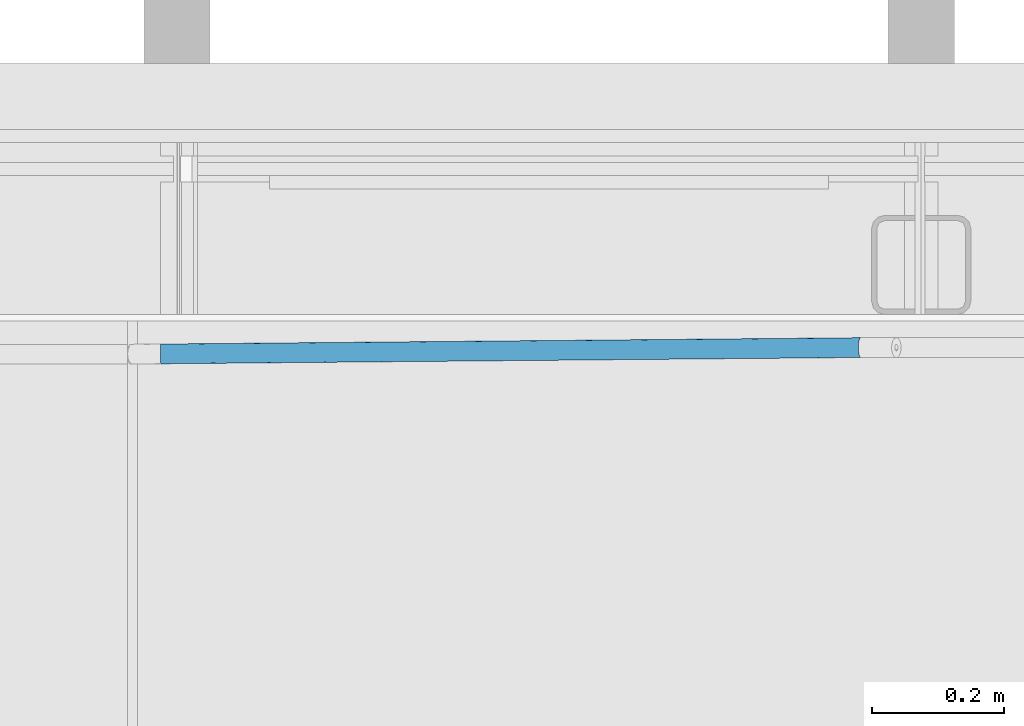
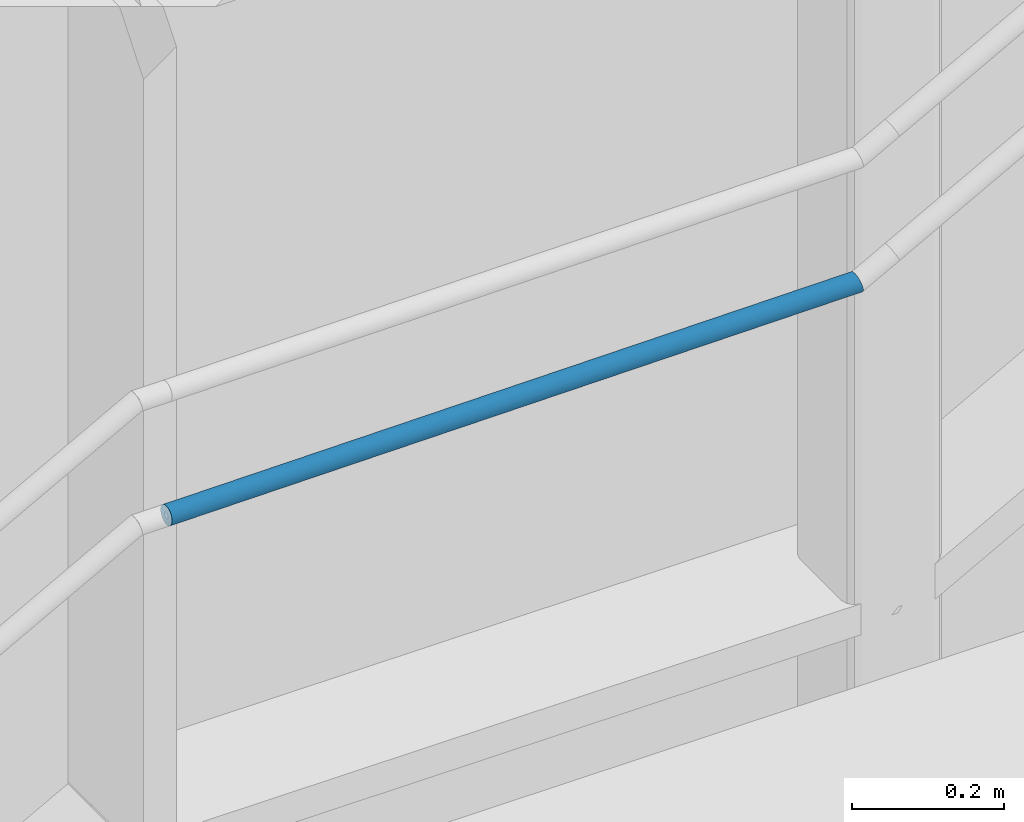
# One storey, part 194 of 301: 1 building element part, 1 element without a shape of its own.
"""IFC2X3 building model written with IfcOpenShell, lengths in millimetres."""

from ifc_helpers import new_model, entity, si_unit, converted_unit, derived_unit, money_unit, direction, frame, origin_with_axes, place, context, subcontext, project, spatial, faceted_brep, material, type_object, element, aggregate, save


model = new_model("IFC2X3")

# Units and contexts
model_context = context("Model", 3, precision=0.01, world=origin_with_axes(), true_north=direction((0.0, 1.0)))
body_context = subcontext(model_context, "Body", "Model", "MODEL_VIEW")
ifc_project = project(units=[si_unit("LENGTHUNIT", "METRE", prefix="MILLI"), si_unit("AREAUNIT", "SQUARE_METRE"), si_unit("VOLUMEUNIT", "CUBIC_METRE"), converted_unit("PLANEANGLEUNIT", "DEGREE", entity("IfcPlaneAngleMeasure", 0.0174532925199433), si_unit("PLANEANGLEUNIT", "RADIAN"), dimensions=[0, 0, 0, 0, 0, 0, 0]), money_unit("EUR"), converted_unit("TIMEUNIT", "Year", entity("IfcTimeMeasure", 31557600.0), si_unit("TIMEUNIT", "SECOND"), dimensions=[0, 0, 1, 0, 0, 0, 0]), si_unit("MASSUNIT", "GRAM", prefix="KILO"), si_unit("THERMODYNAMICTEMPERATUREUNIT", "DEGREE_CELSIUS"), si_unit("LUMINOUSINTENSITYUNIT", "LUMEN"), si_unit("ENERGYUNIT", "JOULE", prefix="MEGA"), derived_unit("THERMALCONDUCTANCEUNIT", [(si_unit("POWERUNIT", "WATT"), 1), (si_unit("LENGTHUNIT", "METRE"), -1), (si_unit("THERMODYNAMICTEMPERATUREUNIT", "KELVIN"), -1)]), derived_unit("SPECIFICHEATCAPACITYUNIT", [(si_unit("ENERGYUNIT", "JOULE"), 1), (si_unit("MASSUNIT", "GRAM", prefix="KILO"), -1), (si_unit("THERMODYNAMICTEMPERATUREUNIT", "KELVIN"), -1)]), derived_unit("MASSDENSITYUNIT", [(si_unit("MASSUNIT", "GRAM", prefix="KILO"), 1), (si_unit("VOLUMEUNIT", "CUBIC_METRE"), -1)])], contexts=[model_context])

# Site, building, storey
site_placement = place(None, frame((0.0, 0.0, 8650.0), z_axis=(0.0, 0.0, 1.0), x_axis=(1.0, 0.0, 0.0)))
site = spatial("IfcSite", under=ifc_project, at=site_placement, Name="43301:001:0844", CompositionType="ELEMENT")
building_placement = place(site_placement, origin_with_axes())
building = spatial("IfcBuilding", under=site, at=building_placement, Name="Kuressaare Ametikooli tuulikute mehaanikute õppekorpus", CompositionType="ELEMENT")
storey_placement = place(building_placement, origin_with_axes())
storey = spatial("IfcBuildingStorey", under=building, at=storey_placement, Name="1.korrus", CompositionType="ELEMENT", Elevation=0.0)

# Railing, building element part
railing_type = type_object("IfcRailingType", Name="Railing Type", PredefinedType="NOTDEFINED")
railing_placement = place(storey_placement, frame((107882.9493746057, 28359.57374875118, 157.6923606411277), z_axis=(0.0, 0.0, 1.0), x_axis=(1.0, 0.0, 0.0)))
railing = element("IfcRailing", 1, at=railing_placement, inside=storey, type_object=railing_type, Name="Piire", PredefinedType="NOTDEFINED")
ifc_material = material(Name="Metall - Teras - Roostevaba")
building_element_part_placement = place(railing_placement, origin_with_axes())
building_element_part = element("IfcBuildingElementPart", 2, at=building_element_part_placement, material=ifc_material, Name="Metall - Teras - Roostevaba", context=body_context, shape_type="Brep", body=[
    faceted_brep([(2609.401935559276, -59.54526141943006, 2562.307692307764), (2609.425841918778, -62.14987440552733, 2562.535576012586), (2609.449585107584, -64.67534229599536, 2563.212302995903), (2609.472443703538, -67.04493031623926, 2564.317311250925), (2609.493723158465, -69.18663959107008, 2565.817025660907), (2609.512776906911, -71.0353953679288, 2567.665878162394), (2609.529026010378, -72.53502413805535, 2569.807692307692), (2609.541976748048, -73.63996044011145, 2572.177390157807), (2609.551235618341, -74.31663134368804, 2574.702969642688), (2609.556521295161, -74.544476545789, 2577.307692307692), (2609.557673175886, -74.3165730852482, 2579.912414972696), (2609.55465626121, -73.63984569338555, 2582.437994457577), (2609.547562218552, -72.53485638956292, 2584.807692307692), (2609.536606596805, -71.03517971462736, 2586.94950645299), (2609.522122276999, -69.1863825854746, 2588.798358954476), (2609.504549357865, -67.04463976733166, 2590.298073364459), (2609.484421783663, -64.67502703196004, 2591.40308161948), (2609.462351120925, -62.14954386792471, 2592.079808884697), (2609.439007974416, -59.54492578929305, 2592.307692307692), (2609.415101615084, -56.94031282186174, 2592.07980860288), (2609.391358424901, -54.41484477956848, 2591.40308161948), (2609.368499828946, -52.04525675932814, 2590.298073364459), (2609.347220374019, -49.90354748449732, 2588.798358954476), (2609.328166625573, -48.05479170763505, 2586.94950645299), (2609.311917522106, -46.55516293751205, 2584.807692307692), (2609.298966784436, -45.45022663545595, 2582.437994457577), (2609.289707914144, -44.77355573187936, 2579.912414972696), (2609.284422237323, -44.5457105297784, 2577.307692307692), (2609.283270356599, -44.77361399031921, 2574.702969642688), (2609.286287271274, -45.45034138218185, 2572.177390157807), (2609.293381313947, -46.55533068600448, 2569.807692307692), (2609.304336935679, -48.05500736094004, 2567.665878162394), (2609.318821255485, -49.9038044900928, 2565.817025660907), (2609.336394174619, -52.04554730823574, 2564.317311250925), (2609.356521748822, -54.41516004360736, 2563.212302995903), (2609.378592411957, -56.94064321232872, 2562.535576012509), (2609.414293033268, -59.54514979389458, 2572.307692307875), (2609.40651198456, -58.67694376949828, 2572.383653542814), (2609.399155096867, -57.83511604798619, 2572.609229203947), (2609.392445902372, -57.04524479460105, 2572.97756528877), (2609.386588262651, -56.33133052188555, 2573.477470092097), (2609.381760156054, -55.71506481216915, 2574.093754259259), (2609.378108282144, -55.21517258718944, 2574.807692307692), (2609.375743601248, -54.84684281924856, 2575.597591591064), (2609.374737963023, -54.62126702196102, 2576.439451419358), (2609.375121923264, -54.54529920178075, 2577.307692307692), (2609.376883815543, -54.62124760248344, 2578.175933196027), (2609.379970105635, -54.8468045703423, 2579.01779302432), (2609.384287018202, -55.2151166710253, 2579.807692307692), (2609.389703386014, -55.71499292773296, 2580.521630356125), (2609.396054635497, -56.33124485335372, 2581.137914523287), (2609.403147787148, -57.04514794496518, 2581.637819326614), (2609.410767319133, -57.83501061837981, 2582.006155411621), (2609.418681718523, -58.67683359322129, 2582.231731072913), (2609.426650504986, -59.5450379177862, 2582.307692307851), (2609.434431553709, -60.41324394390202, 2582.231731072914), (2609.441788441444, -61.25507167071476, 2582.006155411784), (2609.448497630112, -62.04494228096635, 2581.637819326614), (2609.454355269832, -62.7588565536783, 2581.137914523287), (2609.45918337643, -63.37512226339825, 2580.521630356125), (2609.462835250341, -63.87501448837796, 2579.807692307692), (2609.465199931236, -64.24334425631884, 2579.01779302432), (2609.466205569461, -64.46892005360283, 2578.175933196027), (2609.46582160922, -64.54488787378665, 2577.307692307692), (2609.464059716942, -64.46893947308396, 2576.439451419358), (2609.460973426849, -64.2433825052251, 2575.597591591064), (2609.456656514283, -63.87507040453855, 2574.807692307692), (2609.45124014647, -63.37519414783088, 2574.093754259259), (2609.444888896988, -62.75894222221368, 2573.477470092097), (2609.437795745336, -62.04503913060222, 2572.97756528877), (2609.430176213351, -61.25517645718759, 2572.609229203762), (2609.422261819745, -60.41335412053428, 2572.383653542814), (3671.782319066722, -49.96324789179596, 2562.307709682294), (3671.736916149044, -52.56824283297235, 2562.535593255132), (2609.485434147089, -64.67501787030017, 2563.212302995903), (3671.576990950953, -55.09464466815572, 2563.212319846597), (2609.506878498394, -67.04461868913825, 2564.317311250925), (2609.526260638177, -69.18634513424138, 2565.817025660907), (3671.307402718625, -57.46568995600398, 2564.31732746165), (3670.936342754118, -59.60933568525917, 2565.817041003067), (2609.542991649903, -71.03512193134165, 2567.665878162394), (3670.475085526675, -61.46044826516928, 2567.665892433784), (2609.556563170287, -72.53477493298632, 2569.807692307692), (3669.937646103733, -62.96278257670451, 2569.807705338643), (2609.566562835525, -73.63973794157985, 2572.177390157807), (3669.340354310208, -64.07069095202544, 2572.177401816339), (2609.57268681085, -74.3164372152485, 2574.702969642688), (3668.701358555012, -64.75051015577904, 2574.702979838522), (2609.574749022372, -74.5443115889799, 2577.307692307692), (3668.040074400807, -64.98158422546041, 2577.307700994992), (2609.57268681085, -74.3164372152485, 2579.912414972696), (3667.376594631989, -64.75689209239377, 2579.912422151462), (2609.566562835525, -73.63973794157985, 2582.437994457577), (3666.731078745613, -64.08326091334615, 2582.438000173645), (3666.123140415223, -62.98115863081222, 2584.807696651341), (3665.571251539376, -61.48407206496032, 2586.9495095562), (3665.09218098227, -59.63748943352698, 2588.798360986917), (3664.700485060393, -57.49751821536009, 2590.298074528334), (3664.408065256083, -55.12918035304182, 2591.403082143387), (3664.223806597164, -52.60443659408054, 2592.079808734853), (3664.153307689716, -50.00000000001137, 2592.30769230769), (3664.19871060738, -47.39500505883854, 2592.079808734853), (3664.358635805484, -44.86860322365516, 2591.403082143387), (3664.628224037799, -42.49755793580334, 2590.298074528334), (3664.99928400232, -40.35391220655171, 2588.798360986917), (3665.460541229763, -38.5027996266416, 2586.9495095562), (2609.311453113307, -45.45011363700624, 2582.437994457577), (3665.997980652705, -37.00046531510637, 2584.807696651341), (3666.59527244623, -35.89255693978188, 2582.438000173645), (2609.305329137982, -44.77341436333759, 2579.912414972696), (3667.234268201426, -35.21273773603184, 2579.912422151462), (2609.30326692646, -44.5455399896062, 2577.307692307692), (3667.895552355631, -34.98166366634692, 2577.307700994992), (2609.305329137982, -44.77341436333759, 2574.702969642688), (2609.311453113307, -45.45011363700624, 2572.177390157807), (3668.559032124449, -35.20635579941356, 2574.702979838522), (3669.204548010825, -35.87998697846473, 2572.177401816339), (2609.321452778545, -46.55507664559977, 2569.807692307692), (3669.812486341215, -36.98208926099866, 2569.807705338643), (2609.335024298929, -48.05472964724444, 2567.665878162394), (3670.364375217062, -38.47917582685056, 2567.665892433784), (2609.351755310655, -49.90350644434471, 2565.817025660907), (2609.371137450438, -52.04523288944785, 2564.317311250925), (3670.843445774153, -40.32575845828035, 2565.817041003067), (3671.235141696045, -42.46572967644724, 2564.31732746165), (2609.392581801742, -54.41483370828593, 2563.212302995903), (3671.527561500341, -44.83406753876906, 2563.212319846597), (2609.415436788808, -56.94030977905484, 2562.535576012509), (3671.711820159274, -47.35881129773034, 2562.535593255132), (3669.239315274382, -49.97549859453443, 2572.30770389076), (3669.215815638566, -49.10735306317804, 2572.383665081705), (3669.154396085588, -48.26577181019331, 2572.609240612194), (2609.416384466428, -57.04502815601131, 2572.97756528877), (3669.05692281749, -47.47632585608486, 2572.977576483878), (2609.409923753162, -56.33111934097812, 2573.477470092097), (3668.926357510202, -46.76300211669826, 2573.477480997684), (2609.404346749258, -55.71486040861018, 2574.093754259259), (3668.766667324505, -46.14747457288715, 2574.093764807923), (2609.399822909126, -55.2149760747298, 2574.807692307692), (3668.582704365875, -45.64844571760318, 2574.807702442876), (2609.396489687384, -54.84665507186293, 2575.597591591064), (3668.38005825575, -45.28107829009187, 2575.597601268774), (2609.394448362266, -54.62108864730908, 2576.439451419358), (3668.164886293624, -45.05653456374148, 2576.439460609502), (2609.393760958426, -54.54513052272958, 2577.307692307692), (3667.943726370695, -44.98163718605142, 2577.307700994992), (2609.394448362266, -54.62108864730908, 2578.175933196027), (3667.723298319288, -45.05866187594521, 2578.175941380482), (2609.396489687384, -54.84665507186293, 2579.01779302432), (3667.510299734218, -45.28526827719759, 2579.01780072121), (2609.399822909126, -55.2149760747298, 2579.807692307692), (3667.311202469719, -45.65457106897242, 2579.807699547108), (2609.404346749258, -55.71486040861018, 2580.521630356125), (3667.132055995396, -46.15534917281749, 2580.521637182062), (2609.409923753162, -56.33111934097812, 2581.137914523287), (3666.978303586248, -46.77238669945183, 2581.1379209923), (2609.416384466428, -57.04502815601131, 2581.637819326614), (3666.854616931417, -47.48693527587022, 2581.637825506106), (2609.42353258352, -57.83489509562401, 2582.006155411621), (3666.764754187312, -48.27728370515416, 2582.006161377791), (3666.711445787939, -49.1194176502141, 2582.231736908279), (3666.696311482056, -49.9877492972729, 2582.307698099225), (3666.719811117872, -50.85589482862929, 2582.231736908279), (3666.781230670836, -51.69747608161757, 2582.006161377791), (2609.461631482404, -62.04482342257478, 2581.637819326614), (3666.878703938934, -52.48692203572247, 2581.637825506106), (2609.46809219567, -62.75873223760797, 2581.137914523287), (3667.009269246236, -53.20024577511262, 2581.1379209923), (2609.473669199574, -63.37499116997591, 2580.521630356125), (3667.168959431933, -53.81577331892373, 2580.521637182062), (2609.478193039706, -63.87487550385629, 2579.807692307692), (2609.481526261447, -64.24319650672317, 2579.01779302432), (3667.352922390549, -54.3148021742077, 2579.807699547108), (3667.555568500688, -54.68216960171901, 2579.01780072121), (2609.483567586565, -64.46876293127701, 2578.175933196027), (3667.770740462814, -54.9067133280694, 2578.175941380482), (2609.484254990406, -64.54472105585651, 2577.307692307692), (3667.991900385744, -54.98161070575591, 2577.307700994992), (2609.483567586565, -64.46876293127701, 2576.439451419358), (3668.21232843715, -54.90458601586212, 2576.439460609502), (2609.481526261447, -64.24319650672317, 2575.597591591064), (3668.42532702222, -54.67797961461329, 2575.597601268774), (2609.478193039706, -63.87487550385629, 2574.807692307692), (3668.624424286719, -54.30867682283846, 2574.807702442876), (2609.473669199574, -63.37499116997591, 2574.093754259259), (3668.803570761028, -53.80789871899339, 2574.093764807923), (2609.46809219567, -62.75873223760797, 2573.477470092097), (3668.95732317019, -53.1908611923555, 2573.477480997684), (2609.461631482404, -62.04482342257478, 2572.97756528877), (3669.081009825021, -52.4763126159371, 2572.977576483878), (2609.454483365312, -61.25495648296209, 2572.609229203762), (3669.170872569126, -51.68596418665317, 2572.609240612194), (3669.224180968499, -50.84383024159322, 2572.383665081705)], [[[0, 1, 2, 3, 4, 5, 6, 7, 8, 9, 10, 11, 12, 13, 14, 15, 16, 17, 18, 19, 20, 21, 22, 23, 24, 25, 26, 27, 28, 29, 30, 31, 32, 33, 34, 35], [36, 37, 38, 39, 40, 41, 42, 43, 44, 45, 46, 47, 48, 49, 50, 51, 52, 53, 54, 55, 56, 57, 58, 59, 60, 61, 62, 63, 64, 65, 66, 67, 68, 69, 70, 71]], [[1, 0, 72, 73]], [[2, 1, 73, 74]], [[3, 2, 74, 75, 76]], [[77, 4, 3, 76, 78]], [[5, 4, 77, 79, 80]], [[6, 5, 80, 81, 82]], [[6, 82, 83, 84, 7]], [[8, 7, 84, 85, 86]], [[9, 8, 86, 87, 88]], [[10, 9, 88, 89, 90]], [[11, 10, 90, 91, 92]], [[11, 92, 93, 12]], [[13, 12, 94]], [[14, 13, 95]], [[15, 14, 96]], [[16, 15, 97]], [[17, 16, 98]], [[18, 17, 99, 100]], [[19, 18, 100, 101]], [[20, 19, 101]], [[21, 20, 102]], [[22, 21, 103]], [[23, 22, 104]], [[24, 23, 105]], [[106, 25, 24, 107]], [[26, 25, 106, 108, 109]], [[27, 26, 109, 110, 111]], [[28, 27, 111, 112, 113]], [[114, 29, 28, 113, 115]], [[30, 29, 114, 116, 117]], [[31, 30, 117, 118, 119]], [[32, 31, 119, 120, 121]], [[122, 33, 32, 121, 123]], [[34, 33, 122, 124, 125]], [[35, 34, 125, 126, 127]], [[0, 35, 127, 128, 72]], [[37, 36, 129, 130]], [[38, 37, 130, 131]], [[39, 38, 131, 132]], [[39, 132, 133, 134, 40]], [[41, 40, 134, 135, 136]], [[42, 41, 136, 137, 138]], [[43, 42, 138, 139, 140]], [[43, 140, 141, 142, 44]], [[45, 44, 142, 143, 144]], [[46, 45, 144, 145, 146]], [[47, 46, 146, 147, 148]], [[47, 148, 149, 150, 48]], [[49, 48, 150, 151, 152]], [[50, 49, 152, 153, 154]], [[51, 50, 154, 155, 156]], [[52, 51, 156, 157, 158]], [[53, 52, 158, 159, 160]], [[54, 53, 160, 161]], [[55, 54, 161, 162]], [[56, 55, 162, 163]], [[57, 56, 163, 164]], [[58, 57, 164, 165, 166]], [[59, 58, 166, 167, 168]], [[60, 59, 168, 169, 170]], [[171, 61, 60, 170, 172]], [[62, 61, 171, 173, 174]], [[63, 62, 174, 175, 176]], [[64, 63, 176, 177, 178]], [[65, 64, 178, 179, 180]], [[66, 65, 180, 181, 182]], [[67, 66, 182, 183, 184]], [[68, 67, 184, 185, 186]], [[69, 68, 186, 187, 188]], [[70, 69, 188, 189, 190]], [[71, 70, 190, 191, 192]], [[36, 71, 192, 129]], [[95, 94, 93, 91, 89, 87, 85, 83, 81, 79, 78, 75, 73, 72, 128, 126, 124, 123, 120, 118, 116, 115, 112, 110, 108, 107, 105, 104, 103, 102, 101, 100, 99, 98, 97, 96], [169, 167, 165, 163, 162, 161, 160, 159, 157, 155, 153, 151, 149, 147, 145, 143, 141, 139, 137, 135, 133, 131, 130, 129, 192, 191, 189, 187, 185, 183, 181, 179, 177, 175, 173, 172]], [[74, 73, 75]], [[78, 76, 75]], [[79, 77, 78]], [[81, 80, 79]], [[82, 81, 83]], [[84, 83, 85]], [[87, 86, 85]], [[89, 88, 87]], [[91, 90, 89]], [[93, 92, 91]], [[12, 93, 94]], [[95, 13, 94]], [[14, 95, 96]], [[15, 96, 97]], [[16, 97, 98]], [[17, 98, 99]], [[20, 101, 102]], [[21, 102, 103]], [[22, 103, 104]], [[23, 104, 105]], [[24, 105, 107]], [[108, 106, 107]], [[110, 109, 108]], [[111, 110, 112]], [[113, 112, 115]], [[114, 115, 116]], [[118, 117, 116]], [[120, 119, 118]], [[121, 120, 123]], [[124, 122, 123]], [[125, 124, 126]], [[127, 126, 128]], [[132, 131, 133]], [[135, 134, 133]], [[137, 136, 135]], [[139, 138, 137]], [[141, 140, 139]], [[142, 141, 143]], [[145, 144, 143]], [[146, 145, 147]], [[148, 147, 149]], [[151, 150, 149]], [[153, 152, 151]], [[154, 153, 155]], [[156, 155, 157]], [[159, 158, 157]], [[165, 164, 163]], [[167, 166, 165]], [[168, 167, 169]], [[170, 169, 172]], [[171, 172, 173]], [[175, 174, 173]], [[177, 176, 175]], [[178, 177, 179]], [[180, 179, 181]], [[182, 181, 183]], [[184, 183, 185]], [[187, 186, 185]], [[188, 187, 189]], [[190, 189, 191]]]),
])
aggregate(railing, [building_element_part])

save(model, "model.ifc")
